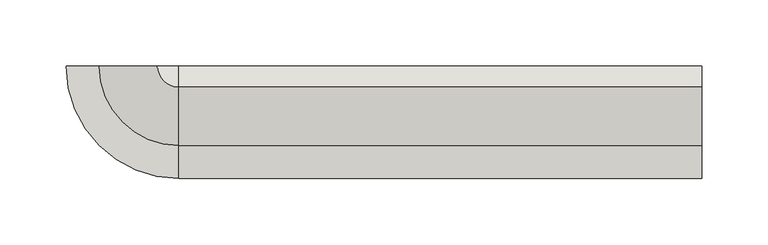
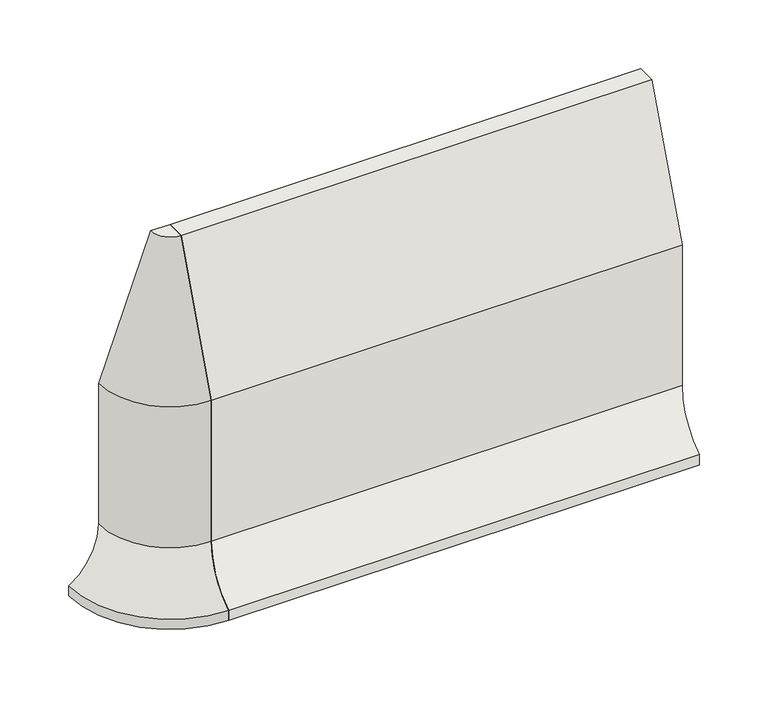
"""IFC4 building model written with IfcOpenShell, lengths in millimetres: wall geometry, GM_PC_UN_ACO kerb PB outside corner_ACO : PB H300 plain."""

import ifcopenshell
import ifcopenshell.guid

model = None  # the IFC model being written
_history = None  # IfcOwnerHistory: only IFC2X3 demands one
_inside = {}  # id of a spatial element -> (the spatial element, [elements in it])
_under = {}  # id of a project, library or spatial element -> (it, [spatial elements below it])
_declared = {}  # id of a project -> (the project, [libraries it declares])
_typed = {}  # id of a type object -> (the type object, [elements of that type])
_made_of = {}  # id of a material, layer set ... -> (it, [elements and type objects made of it])


def new_model(schema):
    """Start an empty IFC model of exactly this schema.

    Asked for "IFC4X3", IfcOpenShell would pick the latest addendum, in which some entities
    have other attributes; the version numbers below select the first issue.
    IFC2X3 requires an IfcOwnerHistory on every rooted entity: one is made here for all.
    """
    global model, _history
    if schema == "IFC4X3":
        model = ifcopenshell.file(schema_version=(4, 3, 0, 0))
    else:
        model = ifcopenshell.file(schema=schema)
    _inside.clear()
    _under.clear()
    _declared.clear()
    _typed.clear()
    _made_of.clear()
    _history = None
    if model.schema == "IFC2X3":
        org = make("IfcOrganization", Name="unknown")
        user = make(
            "IfcPersonAndOrganization",
            ThePerson=make("IfcPerson", FamilyName="unknown"),
            TheOrganization=org,
        )
        app = make(
            "IfcApplication",
            ApplicationDeveloper=org,
            Version="unknown",
            ApplicationFullName="unknown",
            ApplicationIdentifier="unknown",
        )
        _history = make(
            "IfcOwnerHistory",
            OwningUser=user,
            OwningApplication=app,
            ChangeAction="ADDED",
            CreationDate=0,
        )
    return model


def make(cls, **values):
    """One entity of the class cls with the attributes given. An attribute that is None is left unset."""
    return model.create_entity(
        cls, **{name: value for name, value in values.items() if value is not None}
    )


def rooted(cls, **values):
    """An entity with a GlobalId (a new one), such as an element, a storey or a relation."""
    return make(cls, GlobalId=ifcopenshell.guid.new(), OwnerHistory=_history, **values)


def si_unit(unit_type, name, prefix=None):
    """IfcSIUnit, for example si_unit("LENGTHUNIT", "METRE", prefix="MILLI")."""
    return make("IfcSIUnit", UnitType=unit_type, Prefix=prefix, Name=name)


def assignment(units):
    """IfcUnitAssignment: the units of a project."""
    return None if units is None else make("IfcUnitAssignment", Units=units)


def point(xyz):
    """IfcCartesianPoint."""
    return None if xyz is None else make("IfcCartesianPoint", Coordinates=xyz)


def direction(xyz):
    """IfcDirection."""
    return None if xyz is None else make("IfcDirection", DirectionRatios=xyz)


def frame(location, z_axis=None, x_axis=None):
    """IfcAxis2Placement3D, a coordinate frame: its origin and axes. An axis left out is left unset."""
    return make(
        "IfcAxis2Placement3D",
        Location=point(location),
        Axis=direction(z_axis),
        RefDirection=direction(x_axis),
    )


def origin():
    """The frame at (0, 0, 0) with its axes left unset."""
    return frame((0.0, 0.0, 0.0))


def place(relative_to, where):
    """IfcLocalPlacement: puts the frame where relative to a parent placement (None: the world)."""
    return make(
        "IfcLocalPlacement", PlacementRelTo=relative_to, RelativePlacement=where
    )


def context(
    kind, dimensions, precision=None, world=None, true_north=None, identifier=None
):
    """IfcGeometricRepresentationContext, for example the 3D "Model" context."""
    return make(
        "IfcGeometricRepresentationContext",
        ContextIdentifier=identifier,
        ContextType=kind,
        CoordinateSpaceDimension=dimensions,
        Precision=precision,
        WorldCoordinateSystem=world,
        TrueNorth=true_north,
    )


def project(units=None, contexts=None):
    """IfcProject with its units and contexts."""
    return rooted(
        "IfcProject",
        Name="project",
        RepresentationContexts=contexts,
        UnitsInContext=assignment(units),
    )


def spatial(cls, under=None, at=None, **own):
    """A site, building, storey or space (cls), placed at a placement, below another one or the project."""
    s = rooted(cls, ObjectPlacement=at, **own)
    if under is not None:
        _under.setdefault(under.id(), (under, []))[1].append(s)
    return s


def polyline(points):
    """IfcPolyline through the points."""
    return make("IfcPolyline", Points=[point(p) for p in points])


def circle_curve(where, radius):
    """IfcCircle in the frame where."""
    return make("IfcCircle", Position=where, Radius=radius)


def shape(context_of_items, identifier, shape_type, items):
    """IfcShapeRepresentation: the items that make up one representation, for example the "Body"."""
    return make(
        "IfcShapeRepresentation",
        ContextOfItems=context_of_items,
        RepresentationIdentifier=identifier,
        RepresentationType=shape_type,
        Items=items,
    )


def source(mapping_origin, context_of_items, identifier, shape_type, items):
    """IfcRepresentationMap: a shape defined once, which mapped items show again and again."""
    return make(
        "IfcRepresentationMap",
        MappingOrigin=mapping_origin,
        MappedRepresentation=shape(context_of_items, identifier, shape_type, items),
    )


def transform(
    local_origin,
    x_axis=None,
    y_axis=None,
    z_axis=None,
    scale=None,
    scale2=None,
    scale3=None,
    uniform=True,
):
    """IfcCartesianTransformationOperator3D, or its non-uniform kind. x_axis, y_axis, z_axis: its Axis1, 2, 3."""
    if uniform:
        return make(
            "IfcCartesianTransformationOperator3D",
            Axis1=direction(x_axis),
            Axis2=direction(y_axis),
            LocalOrigin=point(local_origin),
            Scale=scale,
            Axis3=direction(z_axis),
        )
    return make(
        "IfcCartesianTransformationOperator3DnonUniform",
        Axis1=direction(x_axis),
        Axis2=direction(y_axis),
        LocalOrigin=point(local_origin),
        Scale=scale,
        Axis3=direction(z_axis),
        Scale2=scale2,
        Scale3=scale3,
    )


def mapped(mapping_source, mapping_target):
    """IfcMappedItem: shows the shape of a source again, moved by a transform."""
    return make(
        "IfcMappedItem", MappingSource=mapping_source, MappingTarget=mapping_target
    )


def made_of(thing, what):
    """Note that an element or type object is made of a material, layer set ...; save() writes the relation."""
    if what is not None:
        _made_of.setdefault(what.id(), (what, []))[1].append(thing)
    return thing


def element(
    cls,
    number,
    at=None,
    inside=None,
    cuts=None,
    type_object=None,
    material=None,
    context=None,
    identifier="Body",
    shape_type=None,
    held_by="IfcProductDefinitionShape",
    body=None,
    shapes=None,
    **own,
):
    """One element of the class cls, such as IfcWall. Its Tag is "e" and its number.

    at: its placement. inside: the storey or other place that contains it. cuts: it is an
    opening in that element (IfcRelVoidsElement). A single representation is given by context,
    identifier, shape_type and body (its items); several are given by shapes. held_by: the class
    of the entity that holds the representations. save() writes the other relations.
    """
    e = rooted(cls, Tag="e%d" % number, ObjectPlacement=at, **own)
    if body is not None:
        shapes = [shape(context, identifier, shape_type, body)]
    if shapes is not None:
        e.Representation = make(held_by, Representations=shapes)
    if inside is not None:
        _inside.setdefault(inside.id(), (inside, []))[1].append(e)
    if cuts is not None:
        rooted(
            "IfcRelVoidsElement", RelatingBuildingElement=cuts, RelatedOpeningElement=e
        )
    if type_object is not None:
        _typed.setdefault(type_object.id(), (type_object, []))[1].append(e)
    return made_of(e, material)


def aggregate(whole, parts):
    """IfcRelAggregates: a whole, such as a stair, and the parts it consists of."""
    return rooted("IfcRelAggregates", RelatingObject=whole, RelatedObjects=parts)


def save(model, path):
    """Write the relations noted so far, then the file.

    IfcRelAggregates (storeys below a building ...), IfcRelContainedInSpatialStructure (elements
    in a storey), IfcRelDefinesByType, IfcRelAssociatesMaterial and IfcRelDeclares: one each for
    every whole, place, type object, material and project.
    """
    for whole, parts in _under.values():
        aggregate(whole, parts)
    for where, things in _inside.values():
        rooted(
            "IfcRelContainedInSpatialStructure",
            RelatedElements=things,
            RelatingStructure=where,
        )
    for kind, things in _typed.values():
        rooted("IfcRelDefinesByType", RelatedObjects=things, RelatingType=kind)
    for what, things in _made_of.values():
        rooted("IfcRelAssociatesMaterial", RelatedObjects=things, RelatingMaterial=what)
    for by, libraries in _declared.values():
        rooted("IfcRelDeclares", RelatingContext=by, RelatedDefinitions=libraries)
    model.write(path)


def plane_surface(at):
    """IfcPlane: the flat surface through the origin of the frame at, square to its z axis."""
    return make("IfcPlane", Position=at)


def cylinder_surface(at, radius):
    """IfcCylindricalSurface: all points at the distance radius from the z axis of the frame at."""
    return make("IfcCylindricalSurface", Position=at, Radius=radius)


def revolved_surface(curve, axis_point, axis_direction):
    """IfcSurfaceOfRevolution: the curve turned about the line through axis_point along axis_direction."""
    return make(
        "IfcSurfaceOfRevolution",
        SweptCurve=make("IfcArbitraryOpenProfileDef", ProfileType="CURVE", Curve=curve),
        AxisPosition=make("IfcAxis1Placement", Location=point(axis_point), Axis=direction(axis_direction)),
    )


def extruded_surface(curve, direction_of_extrusion, depth):
    """IfcSurfaceOfLinearExtrusion: the curve pushed along a direction by depth."""
    return make(
        "IfcSurfaceOfLinearExtrusion",
        SweptCurve=make("IfcArbitraryOpenProfileDef", ProfileType="CURVE", Curve=curve),
        ExtrudedDirection=direction(direction_of_extrusion),
        Depth=depth,
    )


def spline_curve(degree, points, multiplicities, knots, weights=None):
    """IfcBSplineCurveWithKnots; with weights, IfcRationalBSplineCurveWithKnots."""
    own = dict(
        Degree=degree,
        ControlPointsList=[point(p) for p in points],
        CurveForm="UNSPECIFIED",
        ClosedCurve=False,
        SelfIntersect=False,
        KnotMultiplicities=multiplicities,
        Knots=knots,
        KnotSpec="UNSPECIFIED",
    )
    if weights is None:
        return make("IfcBSplineCurveWithKnots", **own)
    return make("IfcRationalBSplineCurveWithKnots", WeightsData=weights, **own)


def advanced_brep(points, edges, surfaces, faces):
    """IfcAdvancedBrep: a solid bounded by faces that lie on surfaces and meet in shared edges.

    An edge is (start, end): straight between two places in points (the first is 0);
    or (start, end, curve); or (start, end, curve, False) where it runs against its curve.
    A face is (place in surfaces, loops), or (place, loops, False) where it looks against
    its surface's normal. A loop lists edges by number (the first is 1), with a minus sign
    where the edge is run from its end to its start. The first loop is the outer one.
    """
    corners = [point(p) for p in points]
    vertices = [make("IfcVertexPoint", VertexGeometry=c) for c in corners]
    made = []
    for start, end, *more in edges:
        made.append(
            make(
                "IfcEdgeCurve",
                EdgeStart=vertices[start],
                EdgeEnd=vertices[end],
                EdgeGeometry=more[0] if more else make("IfcPolyline", Points=[corners[start], corners[end]]),
                SameSense=more[1] if len(more) > 1 else True,
            )
        )
    hull = []
    for where, loops, *sense in faces:
        bounds = []
        for j, loop in enumerate(loops):
            ring = [make("IfcOrientedEdge", EdgeElement=made[abs(k) - 1], Orientation=k > 0) for k in loop]
            bounds.append(
                make(
                    "IfcFaceOuterBound" if j == 0 else "IfcFaceBound",
                    Bound=make("IfcEdgeLoop", EdgeList=ring),
                    Orientation=True,
                )
            )
        hull.append(make("IfcAdvancedFace", Bounds=bounds, FaceSurface=surfaces[where], SameSense=sense[0] if sense else True))
    return make("IfcAdvancedBrep", Outer=make("IfcClosedShell", CfsFaces=hull))


def wall_82b58114(model_context):
    return source(origin(), model_context, "Body", "AdvancedBrep", [
        advanced_brep(
        [(0.0, -85.0, 8.9329844), (0.0, -60.02016, 54.9904169), (0.0, -60.02016, 180.0038512), (0.0, -16.0766274, 300.0008401), (0.0, 0.0, 300.0008401), (0.0, 0.0, -0.0124899), (0.0, -85.0, -0.0124899), (395.0, -85.0, 8.9329844), (395.0, -85.0, -0.0124899), (395.0, 0.0, -0.0124899), (395.0, 0.0, 300.0008401), (395.0, -16.0766274, 300.0008401), (395.0, -60.02016, 180.0038512), (395.0, -60.02016, 54.9904169)],
        [
            (0, 1, spline_curve(3, [(0.0, -85.0, 8.9329844), (0.0, -69.4194957, 19.0724445), (0.0, -60.0210198, 36.401179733), (0.0, -60.02016, 54.9904169)], [4, 4], [0.0, 1.0])),
            (1, 2),
            (2, 3),
            (3, 4),
            (4, 5),
            (5, 6),
            (6, 0),
            (7, 8),
            (8, 9),
            (9, 10),
            (10, 11),
            (11, 12),
            (12, 13),
            (13, 7, spline_curve(3, [(395.0, -60.02016, 54.9904169), (395.0, -60.0210198, 36.401179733), (395.0, -69.4194957, 19.0724445), (395.0, -85.0, 8.9329844)], [4, 4], [0.0, 1.0])),
            (0, 7),
            (13, 1),
            (12, 2),
            (11, 3),
            (10, 4),
            (9, 5),
            (8, 6),
        ],
        [
            plane_surface(frame((0.0, 0.0, 0.0), z_axis=(-1.0, 0.0, 0.0), x_axis=(0.0, 0.0, 1.0))),
            plane_surface(frame((395.0, 0.0, 0.0), z_axis=(1.0, 0.0, 0.0), x_axis=(0.0, 0.0, 1.0))),
            extruded_surface(spline_curve(3, [(395.0, -85.0, 8.9329844), (395.0, -69.4194957, 19.0724445), (395.0, -60.0210198, 36.401179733), (395.0, -60.02016, 54.9904169)], [4, 4], [0.0, 1.0]), (-395.0, 0.0, 0.0), 395.0),
            plane_surface(frame((0.0, -60.02016, 54.9904169), z_axis=(0.0, -1.0, 0.0), x_axis=(1.0, 0.0, 0.0))),
            plane_surface(frame((0.0, -60.02016, 180.0038512), z_axis=(0.0, -0.9390162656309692, 0.34387272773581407), x_axis=(1.0, 0.0, 0.0))),
            plane_surface(frame((0.0, -16.0766274, 300.0008401), z_axis=(0.0, 0.0, 1.0), x_axis=(1.0, 0.0, 0.0))),
            plane_surface(frame((0.0, 0.0, 300.0008401), z_axis=(0.0, 1.0, 0.0), x_axis=(1.0, 0.0, 0.0))),
            plane_surface(frame((0.0, 0.0, -0.0124899), z_axis=(0.0, 0.0, -1.0), x_axis=(1.0, 0.0, 0.0))),
            plane_surface(frame((0.0, -85.0, -0.0124899), z_axis=(0.0, -1.0, 0.0), x_axis=(1.0, 0.0, 0.0))),
        ],
        [
            (0, [[1, 2, 3, 4, 5, 6, 7]]),
            (1, [[8, 9, 10, 11, 12, 13, 14]]),
            (2, [[-1, 15, -14, 16]]),
            (3, [[-2, -16, -13, 17]]),
            (4, [[-3, -17, -12, 18]]),
            (5, [[-4, -18, -11, 19]]),
            (6, [[-5, -19, -10, 20]]),
            (7, [[-6, -20, -9, 21]]),
            (8, [[-7, -21, -8, -15]]),
        ],
    ),
        advanced_brep(
        [(-85.0, 0.0, 8.9329844), (-60.02016, 0.0, 54.9904169), (-60.02016, 0.0, 180.0038512), (-16.0766274, 0.0, 300.0), (0.0, 0.0, 300.0), (0.0, 0.0, 0.0), (-85.0, 0.0, 0.0), (0.0, -85.0, 8.9329844), (0.0, -85.0, 0.0), (0.0, -16.0766274, 300.0), (0.0, -60.02016, 180.0038512), (0.0, -60.02016, 54.9904169)],
        [
            (0, 1, spline_curve(3, [(-85.0, 0.0, 8.9329844), (-69.4194957, 0.0, 19.0724445), (-60.0210198, 0.0, 36.401179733), (-60.02016, 0.0, 54.9904169)], [4, 4], [0.0, 1.0])),
            (1, 2),
            (2, 3),
            (3, 4),
            (4, 5),
            (5, 6),
            (6, 0),
            (7, 8),
            (8, 5),
            (4, 9),
            (9, 10),
            (10, 11),
            (11, 7, spline_curve(3, [(0.0, -60.02016, 54.9904169), (0.0, -60.0210198, 36.401179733), (0.0, -69.4194957, 19.0724445), (0.0, -85.0, 8.9329844)], [4, 4], [0.0, 1.0])),
            (11, 1, circle_curve(frame((0.0, 0.0, 54.9904169), z_axis=(0.0, 0.0, -1.0), x_axis=(-1.0, 0.0, 0.0)), 60.02016)),
            (0, 7, circle_curve(frame((0.0, 0.0, 8.9329844), z_axis=(0.0, 0.0, 1.0), x_axis=(-1.0, 0.0, 0.0)), 85.0)),
            (10, 2, circle_curve(frame((0.0, 0.0, 180.0038512), z_axis=(0.0, 0.0, -1.0), x_axis=(-1.0, 0.0, 0.0)), 60.02016)),
            (9, 3, circle_curve(frame((0.0, 0.0, 300.0), z_axis=(0.0, 0.0, -1.0), x_axis=(-1.0, 0.0, 0.0)), 16.0766274)),
            (8, 6, circle_curve(frame((0.0, 0.0, 0.0), z_axis=(0.0, 0.0, -1.0), x_axis=(-1.0, 0.0, 0.0)), 85.0)),
        ],
        [
            plane_surface(frame((0.0, 0.0, 779.9991599), z_axis=(0.0, 1.0, 0.0), x_axis=(-1.0, 0.0, 0.0))),
            plane_surface(frame((0.0, 0.0, 779.9991599), z_axis=(1.0, 0.0, 0.0), x_axis=(0.0, -1.0, 0.0))),
            revolved_surface(spline_curve(3, [(-85.0, 0.0, 8.9329844), (-69.4194957, 0.0, 19.0724445), (-60.0210198, 0.0, 36.401179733), (-60.02016, 0.0, 54.9904169)], [4, 4], [0.0, 1.0]), (0.0, 0.0, 779.9991599), (0.0, 0.0, 1.0)),
            cylinder_surface(frame((0.0, 0.0, 779.9991599), z_axis=(0.0, 0.0, 1.0), x_axis=(-1.0, 0.0, 0.0)), 60.02016),
            revolved_surface(polyline([(-60.02016, 0.0, 180.0038512), (-16.0766274, 0.0, 300.0)]), (0.0, 0.0, 779.9991599), (0.0, 0.0, 1.0)),
            plane_surface(frame((0.0, 0.0, 300.0), z_axis=(0.0, 0.0, 1.0), x_axis=(-1.0, 0.0, 0.0))),
            plane_surface(frame((0.0, 0.0, 0.0), z_axis=(0.0, 0.0, -1.0), x_axis=(-1.0, 0.0, 0.0))),
            cylinder_surface(frame((0.0, 0.0, 779.9991599), z_axis=(0.0, 0.0, 1.0), x_axis=(-1.0, 0.0, 0.0)), 85.0),
        ],
        [
            (0, [[1, 2, 3, 4, 5, 6, 7]]),
            (1, [[8, 9, -5, 10, 11, 12, 13]]),
            (2, [[14, -1, 15, -13]]),
            (3, [[16, -2, -14, -12]]),
            (4, [[17, -3, -16, -11]]),
            (5, [[-4, -17, -10]]),
            (6, [[18, -6, -9]]),
            (7, [[-15, -7, -18, -8]]),
        ],
    ),
    ])


if __name__ == "__main__":
    model = new_model("IFC4")
    model_context = context("Model", 3, world=origin())
    ifc_project = project(units=[si_unit("LENGTHUNIT", "METRE", prefix="MILLI")], contexts=[model_context])
    site = spatial("IfcSite", under=ifc_project)
    building = spatial("IfcBuilding", under=site)
    placement = place(None, origin())
    wall_shape = wall_82b58114(model_context)
    element("IfcWall", 1, ObjectType="GM_PC_UN_ACO kerb PB outside corner_ACO : PB H300 plain", at=placement, inside=building, context=model_context, shape_type="MappedRepresentation", body=[
        mapped(wall_shape, transform((0.0, 0.0, 0.0), x_axis=(1.0, 0.0, 0.0), y_axis=(0.0, 1.0, 0.0), z_axis=(0.0, 0.0, 1.0))),
    ])
    save(model, "model.ifc")
